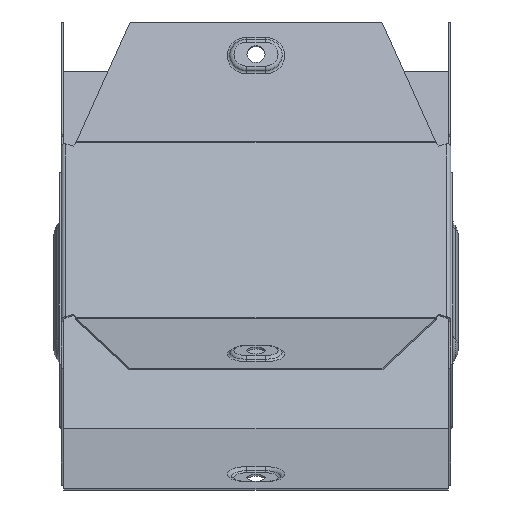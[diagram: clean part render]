
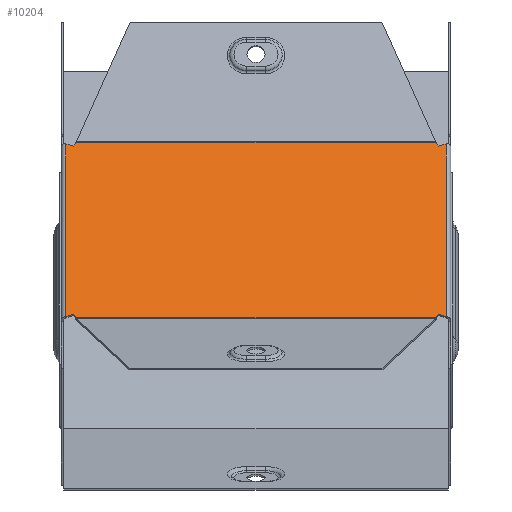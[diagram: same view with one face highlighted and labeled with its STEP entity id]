
A CAD part, front view. The second image highlights one B-rep face of the part: STEP entity #10204.
In plain terms, the highlighted planar face has unit normal (0, -0.707, 0.707).
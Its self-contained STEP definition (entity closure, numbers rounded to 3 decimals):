
#9 = CARTESIAN_POINT ( 'NONE',  ( -70.217, 68.371, -3.747 ) ) ;
#259 = DIRECTION ( 'NONE',  ( -0.924, -0.271, -0.271 ) ) ;
#437 = VERTEX_POINT ( 'NONE', #7371 ) ;
#476 = ORIENTED_EDGE ( 'NONE', *, *, #9891, .T. ) ;
#486 = LINE ( 'NONE', #9666, #3013 ) ;
#644 = EDGE_CURVE ( 'NONE', #6951, #437, #4431, .T. ) ;
#776 = CARTESIAN_POINT ( 'NONE',  ( -69.345, 69.859, -2.258 ) ) ;
#855 = ORIENTED_EDGE ( 'NONE', *, *, #1460, .T. ) ;
#911 = CARTESIAN_POINT ( 'NONE',  ( 69.345, 69.859, -2.258 ) ) ;
#993 = VERTEX_POINT ( 'NONE', #911 ) ;
#1072 = ORIENTED_EDGE ( 'NONE', *, *, #2836, .T. ) ;
#1244 = CARTESIAN_POINT ( 'NONE',  ( -75.299, 69.859, -2.258 ) ) ;
#1336 = LINE ( 'NONE', #8213, #7934 ) ;
#1460 = EDGE_CURVE ( 'NONE', #6749, #6951, #7152, .T. ) ;
#1462 = DIRECTION ( 'NONE',  ( 0.924, -0.271, -0.271 ) ) ;
#1684 = CARTESIAN_POINT ( 'NONE',  ( 73.2, 69.859, -2.258 ) ) ;
#1902 = VECTOR ( 'NONE', #9572, 1000. ) ;
#1971 = EDGE_CURVE ( 'NONE', #4772, #10574, #1336, .T. ) ;
#1992 = CARTESIAN_POINT ( 'NONE',  ( 69.345, 2.258, -69.859 ) ) ;
#2304 = EDGE_LOOP ( 'NONE', ( #476, #3309, #3927, #6995, #3319, #10869, #4444, #1072, #855, #5382, #2467, #3299 ) ) ;
#2333 = DIRECTION ( 'NONE',  ( 0., 0.707, -0.707 ) ) ;
#2396 = VECTOR ( 'NONE', #3791, 1000. ) ;
#2416 = LINE ( 'NONE', #4097, #8996 ) ;
#2467 = ORIENTED_EDGE ( 'NONE', *, *, #3118, .T. ) ;
#2480 = DIRECTION ( 'NONE',  ( -1., 0., 0. ) ) ;
#2521 = DIRECTION ( 'NONE',  ( -1., 0., 0. ) ) ;
#2683 = VECTOR ( 'NONE', #4441, 1000. ) ;
#2751 = LINE ( 'NONE', #1684, #10015 ) ;
#2816 = VERTEX_POINT ( 'NONE', #1992 ) ;
#2836 = EDGE_CURVE ( 'NONE', #7837, #6749, #9354, .T. ) ;
#3013 = VECTOR ( 'NONE', #259, 1000. ) ;
#3043 = CARTESIAN_POINT ( 'NONE',  ( 70.217, 68.371, -3.747 ) ) ;
#3088 = LINE ( 'NONE', #7635, #2683 ) ;
#3118 = EDGE_CURVE ( 'NONE', #437, #8590, #2416, .T. ) ;
#3299 = ORIENTED_EDGE ( 'NONE', *, *, #9608, .F. ) ;
#3309 = ORIENTED_EDGE ( 'NONE', *, *, #1971, .T. ) ;
#3319 = ORIENTED_EDGE ( 'NONE', *, *, #10432, .T. ) ;
#3666 = CARTESIAN_POINT ( 'NONE',  ( 48.5, -33.327, -105.445 ) ) ;
#3791 = DIRECTION ( 'NONE',  ( -0.383, -0.653, -0.653 ) ) ;
#3905 = CARTESIAN_POINT ( 'NONE',  ( 70.217, 3.747, -68.371 ) ) ;
#3927 = ORIENTED_EDGE ( 'NONE', *, *, #10900, .F. ) ;
#4097 = CARTESIAN_POINT ( 'NONE',  ( -70.217, 3.747, -68.371 ) ) ;
#4106 = DIRECTION ( 'NONE',  ( 0., -0.707, -0.707 ) ) ;
#4431 = LINE ( 'NONE', #9564, #4557 ) ;
#4441 = DIRECTION ( 'NONE',  ( 0., -0.707, -0.707 ) ) ;
#4444 = ORIENTED_EDGE ( 'NONE', *, *, #6791, .T. ) ;
#4557 = VECTOR ( 'NONE', #7106, 1000. ) ;
#4772 = VERTEX_POINT ( 'NONE', #3905 ) ;
#5045 = VECTOR ( 'NONE', #2480, 1000. ) ;
#5059 = CARTESIAN_POINT ( 'NONE',  ( -73.2, 69.245, -2.873 ) ) ;
#5187 = VERTEX_POINT ( 'NONE', #776 ) ;
#5214 = CARTESIAN_POINT ( 'NONE',  ( 73.2, 69.245, -2.873 ) ) ;
#5382 = ORIENTED_EDGE ( 'NONE', *, *, #644, .T. ) ;
#5741 = CARTESIAN_POINT ( 'NONE',  ( 73.2, 70., -2.118 ) ) ;
#5811 = DIRECTION ( 'NONE',  ( 0.383, -0.653, -0.653 ) ) ;
#6007 = LINE ( 'NONE', #6312, #1902 ) ;
#6192 = CARTESIAN_POINT ( 'NONE',  ( 73.2, 2.258, -69.859 ) ) ;
#6312 = CARTESIAN_POINT ( 'NONE',  ( 48.5, 105.445, 33.327 ) ) ;
#6355 = VERTEX_POINT ( 'NONE', #5214 ) ;
#6551 = LINE ( 'NONE', #3666, #10101 ) ;
#6625 = CARTESIAN_POINT ( 'NONE',  ( -73.2, 2.873, -69.245 ) ) ;
#6741 = LINE ( 'NONE', #6192, #5045 ) ;
#6749 = VERTEX_POINT ( 'NONE', #5059 ) ;
#6791 = EDGE_CURVE ( 'NONE', #5187, #7837, #7130, .T. ) ;
#6951 = VERTEX_POINT ( 'NONE', #6625 ) ;
#6995 = ORIENTED_EDGE ( 'NONE', *, *, #8323, .T. ) ;
#7106 = DIRECTION ( 'NONE',  ( 0.924, 0.271, 0.271 ) ) ;
#7130 = LINE ( 'NONE', #7136, #2396 ) ;
#7136 = CARTESIAN_POINT ( 'NONE',  ( -70.217, 68.371, -3.747 ) ) ;
#7152 = LINE ( 'NONE', #9909, #10308 ) ;
#7246 = VECTOR ( 'NONE', #10501, 1000. ) ;
#7371 = CARTESIAN_POINT ( 'NONE',  ( -70.217, 3.747, -68.371 ) ) ;
#7493 = PLANE ( 'NONE',  #9550 ) ;
#7635 = CARTESIAN_POINT ( 'NONE',  ( 73.2, 70., -2.118 ) ) ;
#7733 = FACE_OUTER_BOUND ( 'NONE', #2304, .T. ) ;
#7837 = VERTEX_POINT ( 'NONE', #9 ) ;
#7918 = EDGE_CURVE ( 'NONE', #993, #5187, #2751, .T. ) ;
#7934 = VECTOR ( 'NONE', #1462, 1000. ) ;
#8149 = CARTESIAN_POINT ( 'NONE',  ( 73.2, 2.873, -69.245 ) ) ;
#8202 = DIRECTION ( 'NONE',  ( 0., 0.707, 0.707 ) ) ;
#8213 = CARTESIAN_POINT ( 'NONE',  ( 75.299, 2.258, -69.859 ) ) ;
#8323 = EDGE_CURVE ( 'NONE', #6355, #9188, #486, .T. ) ;
#8590 = VERTEX_POINT ( 'NONE', #10222 ) ;
#8996 = VECTOR ( 'NONE', #5811, 1000. ) ;
#9188 = VERTEX_POINT ( 'NONE', #3043 ) ;
#9354 = LINE ( 'NONE', #1244, #7246 ) ;
#9472 = DIRECTION ( 'NONE',  ( 0.383, 0.653, 0.653 ) ) ;
#9550 = AXIS2_PLACEMENT_3D ( 'NONE', #5741, #2333, #8202 ) ;
#9564 = CARTESIAN_POINT ( 'NONE',  ( -75.299, 2.258, -69.859 ) ) ;
#9572 = DIRECTION ( 'NONE',  ( -0.383, 0.653, 0.653 ) ) ;
#9608 = EDGE_CURVE ( 'NONE', #2816, #8590, #6741, .T. ) ;
#9666 = CARTESIAN_POINT ( 'NONE',  ( 75.299, 69.859, -2.258 ) ) ;
#9891 = EDGE_CURVE ( 'NONE', #2816, #4772, #6551, .T. ) ;
#9909 = CARTESIAN_POINT ( 'NONE',  ( -73.2, 70., -2.118 ) ) ;
#10015 = VECTOR ( 'NONE', #2521, 1000. ) ;
#10101 = VECTOR ( 'NONE', #9472, 1000. ) ;
#10204 = ADVANCED_FACE ( 'NONE', ( #7733 ), #7493, .F. ) ;
#10222 = CARTESIAN_POINT ( 'NONE',  ( -69.345, 2.258, -69.859 ) ) ;
#10308 = VECTOR ( 'NONE', #4106, 1000. ) ;
#10432 = EDGE_CURVE ( 'NONE', #9188, #993, #6007, .T. ) ;
#10501 = DIRECTION ( 'NONE',  ( -0.924, 0.271, 0.271 ) ) ;
#10574 = VERTEX_POINT ( 'NONE', #8149 ) ;
#10869 = ORIENTED_EDGE ( 'NONE', *, *, #7918, .T. ) ;
#10900 = EDGE_CURVE ( 'NONE', #6355, #10574, #3088, .T. ) ;
